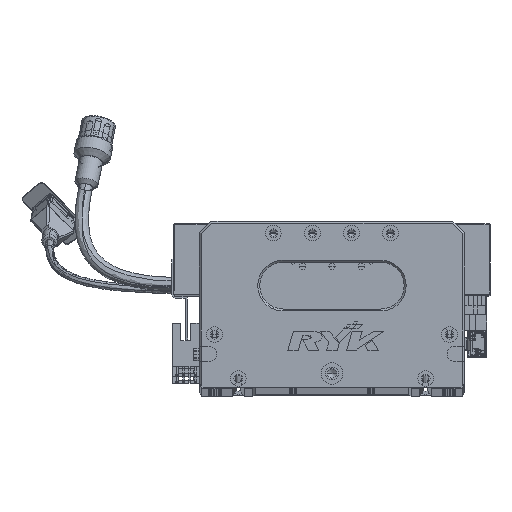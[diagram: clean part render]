
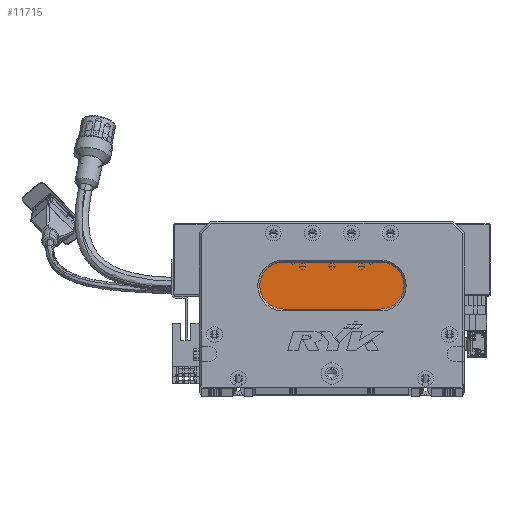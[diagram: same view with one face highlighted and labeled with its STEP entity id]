
A CAD part, top view. The second image highlights one B-rep face of the part: STEP entity #11715.
In plain terms, the highlighted planar face has unit normal (0, 0, 1) as drawn and (0, 0, -1) by its records, which use the part's own axes.
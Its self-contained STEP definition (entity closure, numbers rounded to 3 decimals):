
#80 = CARTESIAN_POINT ( 'NONE',  ( 93., 40., 13. ) ) ;
#7472 = DIRECTION ( 'NONE',  ( -1., 0., 0. ) ) ;
#8011 = CARTESIAN_POINT ( 'NONE',  ( 43., 52., 13. ) ) ;
#8557 = ORIENTED_EDGE ( 'NONE', *, *, #97435, .T. ) ;
#8943 = CARTESIAN_POINT ( 'NONE',  ( 43., 40., 13. ) ) ;
#11715 = ADVANCED_FACE ( 'NONE', ( #112692 ), #17035, .T. ) ;
#16151 = VERTEX_POINT ( 'NONE', #64144 ) ;
#17035 = PLANE ( 'NONE',  #110497 ) ;
#18298 = CIRCLE ( 'NONE', #50599, 12. ) ;
#23432 = VERTEX_POINT ( 'NONE', #8943 ) ;
#28584 = ORIENTED_EDGE ( 'NONE', *, *, #120653, .T. ) ;
#31321 = EDGE_CURVE ( 'NONE', #84532, #23432, #78439, .T. ) ;
#35509 = DIRECTION ( 'NONE',  ( -1., 0., 0. ) ) ;
#39351 = CARTESIAN_POINT ( 'NONE',  ( 43., 52., 13. ) ) ;
#45639 = CARTESIAN_POINT ( 'NONE',  ( 31., 52., 13. ) ) ;
#49885 = CIRCLE ( 'NONE', #119440, 12. ) ;
#50599 = AXIS2_PLACEMENT_3D ( 'NONE', #66284, #74657, #65465 ) ;
#50903 = DIRECTION ( 'NONE',  ( 1., 0., 0. ) ) ;
#51618 = VECTOR ( 'NONE', #86018, 1000. ) ;
#64144 = CARTESIAN_POINT ( 'NONE',  ( 93., 64., 13. ) ) ;
#65465 = DIRECTION ( 'NONE',  ( -1., 0., 0. ) ) ;
#66284 = CARTESIAN_POINT ( 'NONE',  ( 93., 52., 13. ) ) ;
#69407 = ORIENTED_EDGE ( 'NONE', *, *, #76467, .T. ) ;
#71851 = LINE ( 'NONE', #72639, #83863 ) ;
#72639 = CARTESIAN_POINT ( 'NONE',  ( 93., 64., 13. ) ) ;
#72903 = EDGE_LOOP ( 'NONE', ( #8557, #94654, #69407, #83322, #28584 ) ) ;
#74294 = DIRECTION ( 'NONE',  ( 0., 0., -1. ) ) ;
#74657 = DIRECTION ( 'NONE',  ( 0., 0., -1. ) ) ;
#76467 = EDGE_CURVE ( 'NONE', #23432, #121790, #49885, .T. ) ;
#78439 = LINE ( 'NONE', #80, #51618 ) ;
#79346 = VERTEX_POINT ( 'NONE', #92582 ) ;
#83322 = ORIENTED_EDGE ( 'NONE', *, *, #107366, .T. ) ;
#83863 = VECTOR ( 'NONE', #50903, 1000. ) ;
#84227 = CARTESIAN_POINT ( 'NONE',  ( 93., 52., 13. ) ) ;
#84532 = VERTEX_POINT ( 'NONE', #86155 ) ;
#86018 = DIRECTION ( 'NONE',  ( -1., 0., 0. ) ) ;
#86155 = CARTESIAN_POINT ( 'NONE',  ( 93., 40., 13. ) ) ;
#86523 = CIRCLE ( 'NONE', #94461, 12. ) ;
#92582 = CARTESIAN_POINT ( 'NONE',  ( 43., 64., 13. ) ) ;
#94461 = AXIS2_PLACEMENT_3D ( 'NONE', #39351, #106916, #106086 ) ;
#94654 = ORIENTED_EDGE ( 'NONE', *, *, #31321, .T. ) ;
#97435 = EDGE_CURVE ( 'NONE', #16151, #84532, #18298, .T. ) ;
#106086 = DIRECTION ( 'NONE',  ( -1., 0., 0. ) ) ;
#106916 = DIRECTION ( 'NONE',  ( 0., 0., -1. ) ) ;
#107366 = EDGE_CURVE ( 'NONE', #121790, #79346, #86523, .T. ) ;
#110497 = AXIS2_PLACEMENT_3D ( 'NONE', #84227, #121826, #7472 ) ;
#112692 = FACE_OUTER_BOUND ( 'NONE', #72903, .T. ) ;
#119440 = AXIS2_PLACEMENT_3D ( 'NONE', #8011, #74294, #35509 ) ;
#120653 = EDGE_CURVE ( 'NONE', #79346, #16151, #71851, .T. ) ;
#121790 = VERTEX_POINT ( 'NONE', #45639 ) ;
#121826 = DIRECTION ( 'NONE',  ( 0., 0., -1. ) ) ;
